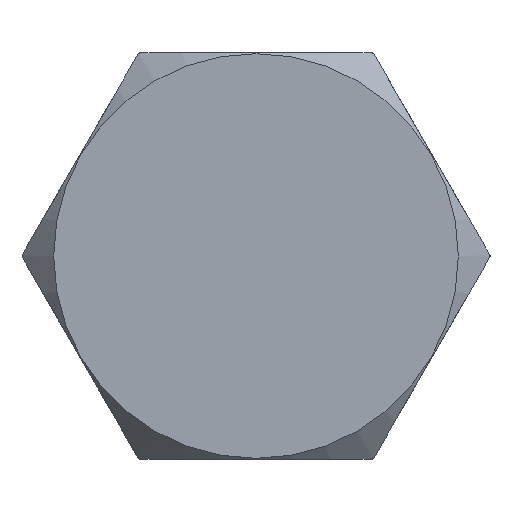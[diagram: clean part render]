
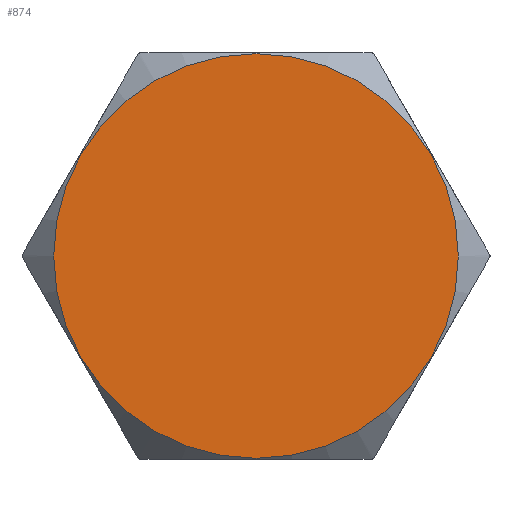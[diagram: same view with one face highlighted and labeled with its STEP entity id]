
A CAD part, front view. The second image highlights one B-rep face of the part: STEP entity #874.
In plain terms, the highlighted planar face has unit normal (0, -1, 0).
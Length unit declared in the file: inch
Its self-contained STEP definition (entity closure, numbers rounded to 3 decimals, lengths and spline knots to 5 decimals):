
#57=PLANE('',#1004);
#197=FACE_OUTER_BOUND('',#251,.T.);
#251=EDGE_LOOP('',(#753));
#315=CIRCLE('',#1001,0.498);
#414=VERTEX_POINT('',#1644);
#531=EDGE_CURVE('',#414,#414,#315,.T.);
#753=ORIENTED_EDGE('',*,*,#531,.F.);
#874=ADVANCED_FACE('',(#197),#57,.T.);
#1001=AXIS2_PLACEMENT_3D('',#1645,#1224,#1225);
#1004=AXIS2_PLACEMENT_3D('',#1649,#1231,#1232);
#1224=DIRECTION('center_axis',(0.,1.,0.));
#1225=DIRECTION('ref_axis',(0.,0.,1.));
#1231=DIRECTION('center_axis',(0.,-1.,0.));
#1232=DIRECTION('ref_axis',(0.,0.,-1.));
#1644=CARTESIAN_POINT('',(0.,0.,-0.498));
#1645=CARTESIAN_POINT('Origin',(0.,0.,0.));
#1649=CARTESIAN_POINT('Origin',(0.,0.,0.));
